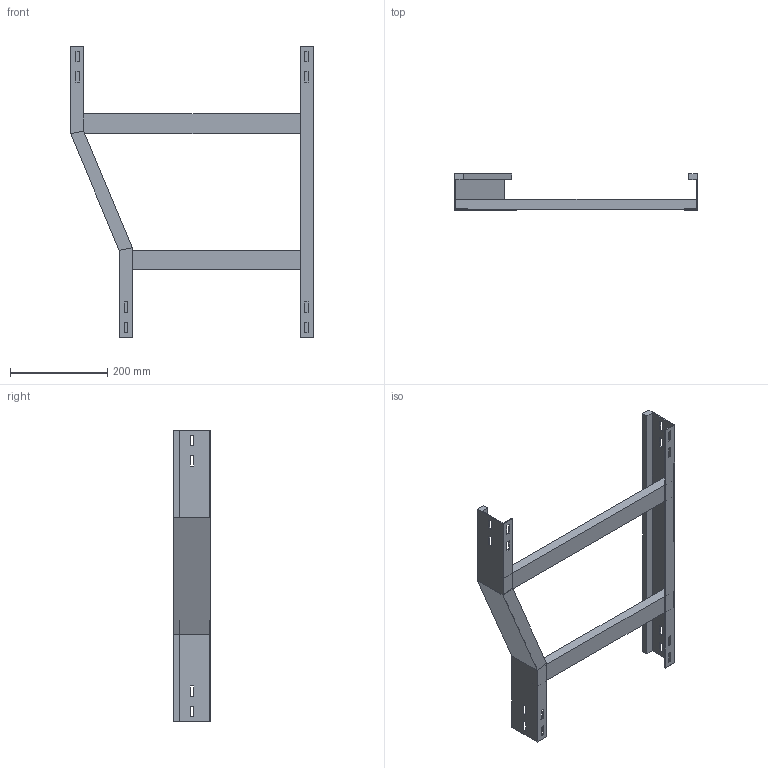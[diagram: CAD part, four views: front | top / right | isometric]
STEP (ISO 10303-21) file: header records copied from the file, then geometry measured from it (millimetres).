
FILE_DESCRIPTION (( 'STEP AP214' ), '1' );
FILE_NAME ('B2X21B4C500XX.step', '2025-09-02T17:16:50', ( '' ), ( '' ), 'SwSTEP 2.0', 'SolidWorks 2023', '' );
FILE_SCHEMA (( 'AUTOMOTIVE_DESIGN' ));
Length unit declared in the file: millimetre
Products named in the file (5): B2X21B4C500XX; SPONDA RID. DX 500-400_H75; SPONDA DRITTA_H75; TRAVERSINO_500; TRAVERSINO_400
Assembly tree (4 placements, depth 2):
  B2X21B4C500XX
    SPONDA RID. DX 500-400_H75
    TRAVERSINO_400
    TRAVERSINO_500
    SPONDA DRITTA_H75
Bounding box: 500 x 75 x 600 mm (x, y, z)
Volume: 1195832 mm3; surface area: 397588 mm2
Topology: 4 solids, 4 shells, 112 faces, 296 edges, 192 vertices
Faces by surface type: plane 112
Entity records: 3590 total; most frequent: CARTESIAN_POINT 607, ORIENTED_EDGE 592, DIRECTION 534, LINE 296, EDGE_CURVE 296, VECTOR 296, VERTEX_POINT 192, EDGE_LOOP 144
